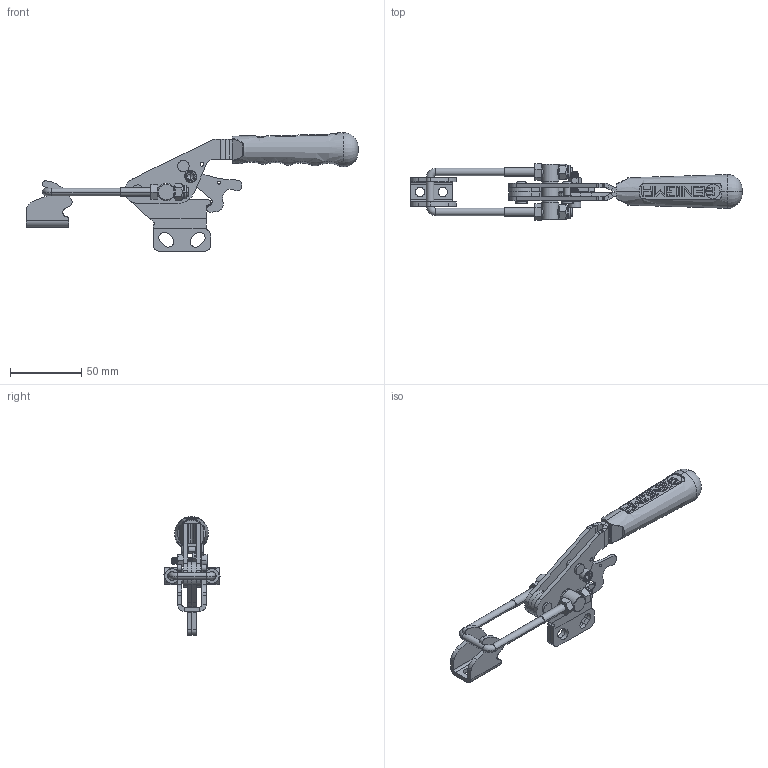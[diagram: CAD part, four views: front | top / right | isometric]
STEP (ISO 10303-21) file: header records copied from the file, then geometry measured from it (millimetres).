
FILE_DESCRIPTION (( 'STEP AP203' ), '1' );
FILE_NAME ('13006_D_K.STEP', '2022-11-30T07:39:26', ( '' ), ( '' ), 'SwSTEP 2.0', 'SolidWorks 2023', '' );
FILE_SCHEMA (( 'CONFIG_CONTROL_DESIGN' ));
Length unit declared in the file: millimetre
Products named in the file (15): 13206_ALMANYA_Y_GÖVDE_10.08.22-16.56; C90_Yeni_Tutamak_Varsayılan; 5x17_PERÇİN_Varsayılan; 13006_YENİ_HAREKET_KOLU_29.11.22-16,36; M5x20 Imbus Civata; 13106_KİLİT_MEKANİZMASI_09.09.2022 REVİZYONU; M6_FİBERLİ_SOMUN; M5 Somun_Varsayılan; M6_KK; Ø12xM6_U_KANCA_MİLİ_OTOMATI_Varsayılan; 13006_D_K; Mirror13006_YENİ_HAREKET_KOLU_29.11.22-16,36; Mirror13206_ALMANYA_Y_GÖVDE_10.08.22-16.56; M6_SOMUN; M6x50_U_KANCA_Varsayılan
Assembly tree (17 placements, depth 2):
  13006_D_K
    13206_ALMANYA_Y_GÖVDE_10.08.22-16.56
    13106_KİLİT_MEKANİZMASI_09.09.2022 REVİZYONU
    C90_Yeni_Tutamak_Varsayılan
    M6_KK
    Mirror13206_ALMANYA_Y_GÖVDE_10.08.22-16.56
    Ø12xM6_U_KANCA_MİLİ_OTOMATI_Varsayılan
    5x17_PERÇİN_Varsayılan  x2
    M5x20 Imbus Civata
    M6_FİBERLİ_SOMUN  x2
    M6_SOMUN  x2
    M5 Somun_Varsayılan
    13006_YENİ_HAREKET_KOLU_29.11.22-16,36
    Mirror13006_YENİ_HAREKET_KOLU_29.11.22-16,36
    M6x50_U_KANCA_Varsayılan
Bounding box: 232.47 x 39.47 x 83.02 mm (x, y, z)
Volume: 66041.4 mm3; surface area: 45916.2 mm2
Topology: 17 solids, 17 shells, 789 faces, 1990 edges, 1253 vertices
Faces by surface type: plane 379, cylinder 271, cone 68, torus 42, bspline 25, sphere 4
Entity records: 37677 total; most frequent: CARTESIAN_POINT 19664, ORIENTED_EDGE 3456, DIRECTION 3394, EDGE_CURVE 1728, AXIS2_PLACEMENT_3D 1230, VERTEX_POINT 1093, LINE 934, VECTOR 934
